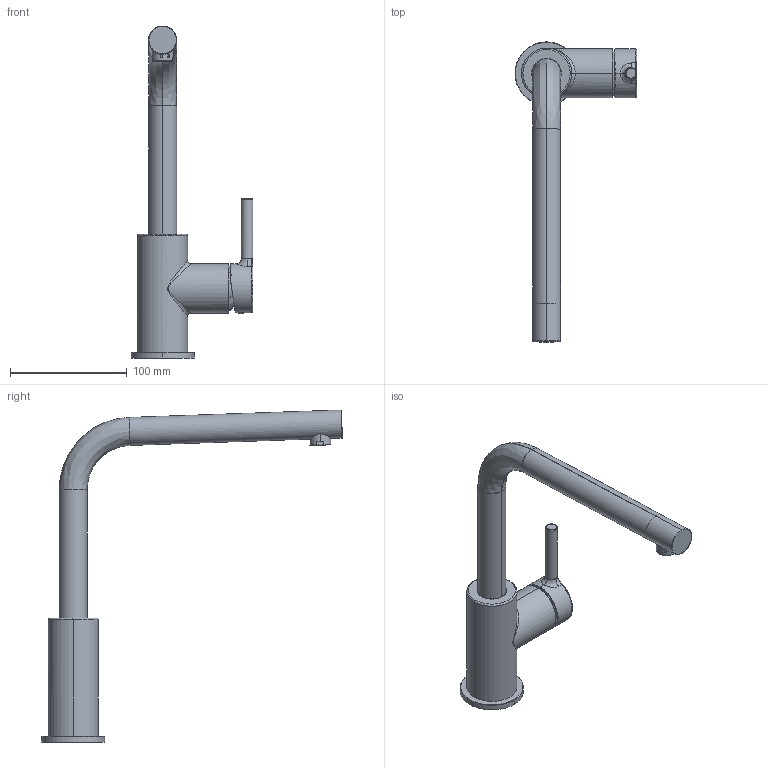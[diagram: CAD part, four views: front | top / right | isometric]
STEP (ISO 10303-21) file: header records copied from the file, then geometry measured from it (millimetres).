
FILE_DESCRIPTION(/* description */ (''),/* implementation_level */ '2;1');
FILE_NAME(/* name */ '3D001_Taps_Lina_L-Swivel-Spout',/* time_stamp */ '2026-08-06T10:15:45+02:00',/* author */ (''),/* organization */ (''),/* preprocessor_version */ 'ST-DEVELOPER v19.2',/* originating_system */ 'Rhino 8.31',/* authorisation */ '');
FILE_SCHEMA (('CONFIG_CONTROL_DESIGN'));
Length unit declared in the file: millimetre
Products named in the file (13): Document; SBU050800; S_PRG_GE01722_0002_TUBO_AF0; S_AE_03016_CORPO_AF0; S_AE_03016_GUARN_AF0; S_PRG_FR03623_0023; S_PRG_FR03623_0027; S_PRG_FR03623_0087_MAN_ASM; S_PRG_FR03623_0087_01; S_PRG_FR03623_0087_02; S_PRG_FR03623_0094_COPRIG_ASM; S_PRG_FR03623_0094_01; S_PRG_FR03623_0094_02
Bounding box: 104.35 x 257.41 x 284.18 mm (x, y, z)
Volume: 52628.6 mm3; surface area: 97378.3 mm2
Topology: 18 solids, 23 shells, 2143 faces, 4836 edges, 2750 vertices
Faces by surface type: plane 1088, cylinder 831, bspline 224
Entity records: 70501 total; most frequent: CARTESIAN_POINT 32746, ORIENTED_EDGE 9640, EDGE_CURVE 4831, B_SPLINE_CURVE_WITH_KNOTS 3527, DIRECTION 3351, VERTEX_POINT 2750, AXIS2_PLACEMENT_3D 2635, EDGE_LOOP 2201
